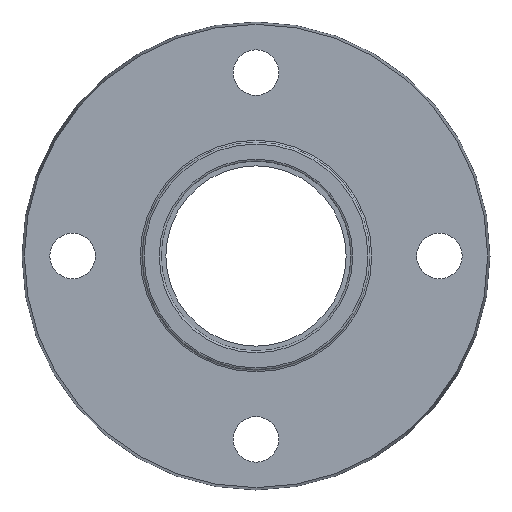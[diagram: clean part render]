
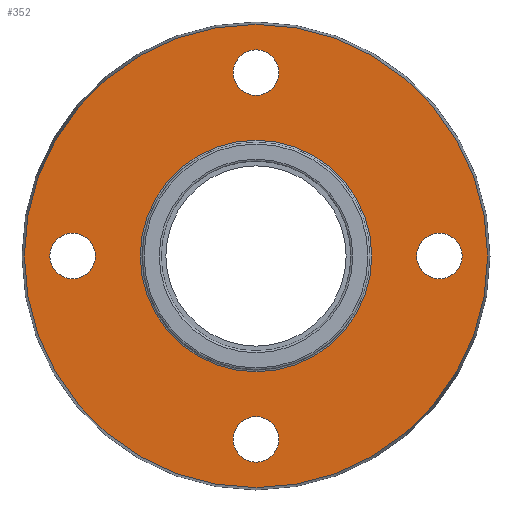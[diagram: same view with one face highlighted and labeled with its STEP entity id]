
A CAD part, left-side view. The second image highlights one B-rep face of the part: STEP entity #352.
In plain terms, the highlighted planar face has unit normal (-1, 0, 0).
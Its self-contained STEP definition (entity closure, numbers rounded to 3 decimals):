
#28=PLANE('',#409);
#55=FACE_BOUND('',#141,.T.);
#56=FACE_BOUND('',#142,.T.);
#57=FACE_BOUND('',#143,.T.);
#58=FACE_BOUND('',#144,.T.);
#59=FACE_BOUND('',#145,.T.);
#87=FACE_OUTER_BOUND('',#140,.T.);
#140=EDGE_LOOP('',(#300));
#141=EDGE_LOOP('',(#301));
#142=EDGE_LOOP('',(#302));
#143=EDGE_LOOP('',(#303));
#144=EDGE_LOOP('',(#304));
#145=EDGE_LOOP('',(#305));
#184=CIRCLE('',#408,45.75);
#185=CIRCLE('',#410,91.575);
#186=CIRCLE('',#411,9.);
#187=CIRCLE('',#412,9.);
#188=CIRCLE('',#413,9.);
#189=CIRCLE('',#414,9.);
#216=VERTEX_POINT('',#617);
#217=VERTEX_POINT('',#620);
#218=VERTEX_POINT('',#622);
#219=VERTEX_POINT('',#624);
#220=VERTEX_POINT('',#626);
#221=VERTEX_POINT('',#628);
#248=EDGE_CURVE('',#216,#216,#184,.T.);
#249=EDGE_CURVE('',#217,#217,#185,.T.);
#250=EDGE_CURVE('',#218,#218,#186,.T.);
#251=EDGE_CURVE('',#219,#219,#187,.T.);
#252=EDGE_CURVE('',#220,#220,#188,.T.);
#253=EDGE_CURVE('',#221,#221,#189,.T.);
#300=ORIENTED_EDGE('',*,*,#249,.T.);
#301=ORIENTED_EDGE('',*,*,#250,.T.);
#302=ORIENTED_EDGE('',*,*,#251,.T.);
#303=ORIENTED_EDGE('',*,*,#252,.T.);
#304=ORIENTED_EDGE('',*,*,#253,.T.);
#305=ORIENTED_EDGE('',*,*,#248,.F.);
#352=ADVANCED_FACE('',(#87,#55,#56,#57,#58,#59),#28,.T.);
#408=AXIS2_PLACEMENT_3D('',#618,#517,#518);
#409=AXIS2_PLACEMENT_3D('',#619,#519,#520);
#410=AXIS2_PLACEMENT_3D('',#621,#521,#522);
#411=AXIS2_PLACEMENT_3D('',#623,#523,#524);
#412=AXIS2_PLACEMENT_3D('',#625,#525,#526);
#413=AXIS2_PLACEMENT_3D('',#627,#527,#528);
#414=AXIS2_PLACEMENT_3D('',#629,#529,#530);
#517=DIRECTION('center_axis',(-1.,0.,0.));
#518=DIRECTION('ref_axis',(0.,1.,0.));
#519=DIRECTION('center_axis',(-1.,0.,0.));
#520=DIRECTION('ref_axis',(0.,0.,1.));
#521=DIRECTION('center_axis',(-1.,0.,0.));
#522=DIRECTION('ref_axis',(0.,0.,1.));
#523=DIRECTION('center_axis',(1.,0.,0.));
#524=DIRECTION('ref_axis',(0.,0.,1.));
#525=DIRECTION('center_axis',(1.,0.,0.));
#526=DIRECTION('ref_axis',(0.,1.,0.));
#527=DIRECTION('center_axis',(1.,0.,0.));
#528=DIRECTION('ref_axis',(0.,0.,-1.));
#529=DIRECTION('center_axis',(1.,0.,0.));
#530=DIRECTION('ref_axis',(0.,-1.,0.));
#617=CARTESIAN_POINT('',(4.5,-45.75,0.));
#618=CARTESIAN_POINT('Origin',(4.5,0.,0.));
#619=CARTESIAN_POINT('Origin',(4.5,-45.,0.));
#620=CARTESIAN_POINT('',(4.5,-91.575,0.));
#621=CARTESIAN_POINT('Origin',(4.5,0.,0.));
#622=CARTESIAN_POINT('',(4.5,72.5,-9.));
#623=CARTESIAN_POINT('Origin',(4.5,72.5,0.));
#624=CARTESIAN_POINT('',(4.5,-9.,-72.5));
#625=CARTESIAN_POINT('Origin',(4.5,0.,-72.5));
#626=CARTESIAN_POINT('',(4.5,-72.5,9.));
#627=CARTESIAN_POINT('Origin',(4.5,-72.5,0.));
#628=CARTESIAN_POINT('',(4.5,9.,72.5));
#629=CARTESIAN_POINT('Origin',(4.5,0.,72.5));
